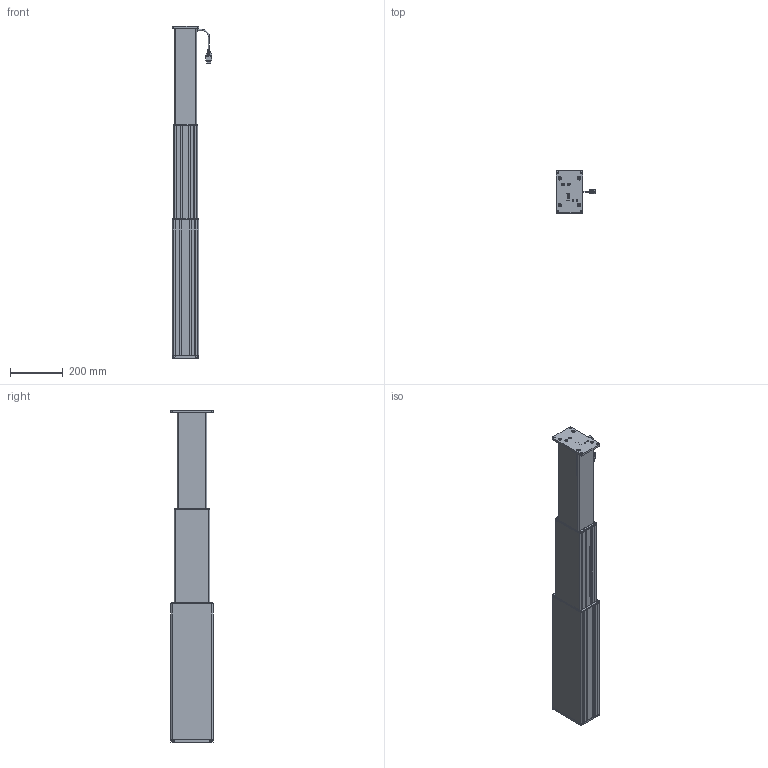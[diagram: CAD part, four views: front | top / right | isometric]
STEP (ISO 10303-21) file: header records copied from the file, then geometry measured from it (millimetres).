
FILE_DESCRIPTION(/* description */ ('Unknown'),/* implementation_level */ '2;1');
FILE_NAME(/* name */ '911.20001_01-ausgefahren',/* time_stamp */ '2024-11-07T11:10:15+01:00',/* author */ ('Unknown'),/* organization */ ('Unknown'),/* preprocessor_version */ 'ST-DEVELOPER v18.104',/* originating_system */ 'Solid Edge',/* authorisation */ 'Unknown');
FILE_SCHEMA (('AUTOMOTIVE_DESIGN {1 0 10303 214 3 1 1}'));
Products named in the file (24): 911.20001; 119.00570; 124.00245; 142.00154; 126.00188; 119.00573; 126.00191; 119.00571; 119.00574; 142.00039; 119.00572; 142.00303; 142.00304; 142.00043; 127.00452; 128.00078; 128.00079; 126.00192; 127.00450; 124.00129; Kabel Molex; 142.00349; 142.00329; 142.00294
Assembly tree (39 placements, depth 2):
  911.20001
    119.00570
    124.00245
    142.00154  x4
    126.00188
    119.00573  x2
    126.00191
    119.00571  x2
    119.00574  x2
    142.00039  x4
    119.00572  x2
    142.00303  x4
    142.00304
    142.00043  x2
    127.00452
    128.00078
    128.00079
    126.00192
    127.00450
    124.00129
    Kabel Molex
    142.00349  x2
    142.00329  x2
    142.00294
Bounding box: 150.67 x 160.4 x 1259.99 mm (x, y, z)
Volume: 4012370.3 mm3; surface area: 2058684.1 mm2
Topology: 39 solids, 39 shells, 2085 faces, 5503 edges, 3555 vertices
Faces by surface type: plane 1199, cylinder 629, torus 137, cone 69, bspline 36, sphere 15
Full cylindrical faces by diameter (mm): 2 x8, 4 x5, 4.134 x4, 4.2 x6, 4.917 x6, 5 x9, 5.3 x2, 5.5 x7, 6 x12, 6.2 x4, 6.3 x2, 6.5 x4, 6.647 x4, 7 x2, 7.5 x1, 8 x2, 9 x1, 10 x6, 10.5 x1, 10.6 x2, 12 x4, 13.6 x1, 15 x2, 21 x1, 22 x1, 28 x2, 55 x1, 59 x1
Entity records: 60067 total; most frequent: CARTESIAN_POINT 12311, DIRECTION 8874, ORIENTED_EDGE 8836, EDGE_CURVE 4418, AXIS2_PLACEMENT_3D 3047, VERTEX_POINT 2941, LINE 2780, VECTOR 2780
